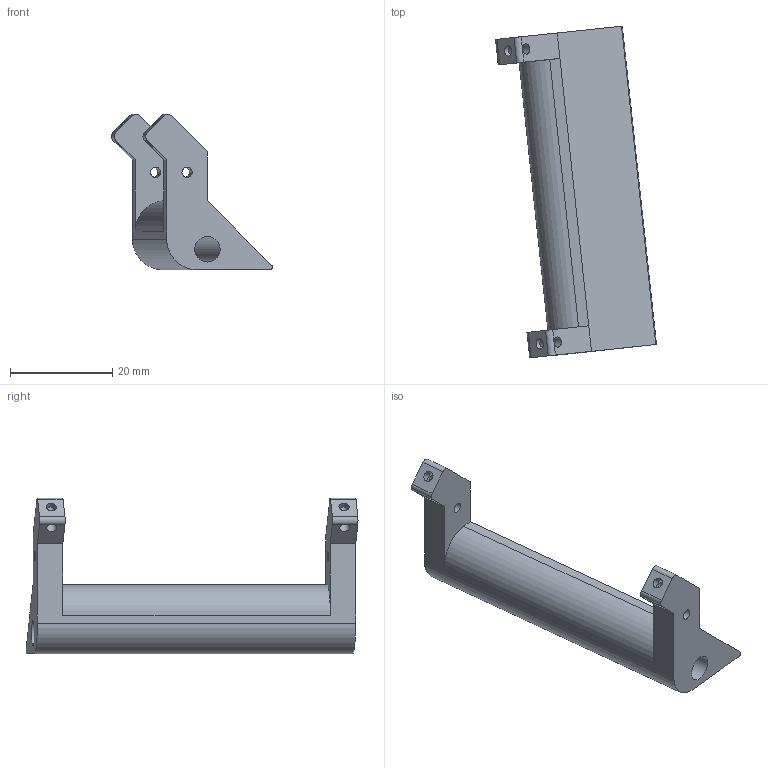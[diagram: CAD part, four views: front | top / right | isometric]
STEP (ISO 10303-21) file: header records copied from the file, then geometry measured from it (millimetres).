
FILE_DESCRIPTION(/* description */ (''),/* implementation_level */ '2;1');
FILE_NAME(/* name */ 'C:\Users\xxnew\Desktop\Dossier Méca usinage ESME\Impression sur lit de poudre\solid_chipper.stp',/* time_stamp */ '2020-10-21T17:55:49+02:00',/* author */ ('xxnew'),/* organization */ (''),/* preprocessor_version */ 'ST-DEVELOPER v17',/* originating_system */ 'Autodesk Inventor 2019',/* authorisation */ '');
FILE_SCHEMA (('AUTOMOTIVE_DESIGN { 1 0 10303 214 3 1 1 }'));
Length unit declared in the file: millimetre
Products named in the file (1): solid_chipper
Bounding box: 31.44 x 64.8 x 30.36 mm (x, y, z)
Volume: 11491.8 mm3; surface area: 5813.8 mm2
Topology: 1 solids, 1 shells, 38 faces, 112 edges, 68 vertices
Faces by surface type: cylinder 20, plane 16, cone 2
Full cylindrical faces by diameter (mm): 2 x8, 5 x1
Entity records: 1321 total; most frequent: DIRECTION 236, ORIENTED_EDGE 220, CARTESIAN_POINT 217, EDGE_CURVE 110, AXIS2_PLACEMENT_3D 87, VERTEX_POINT 68, LINE 62, VECTOR 62
